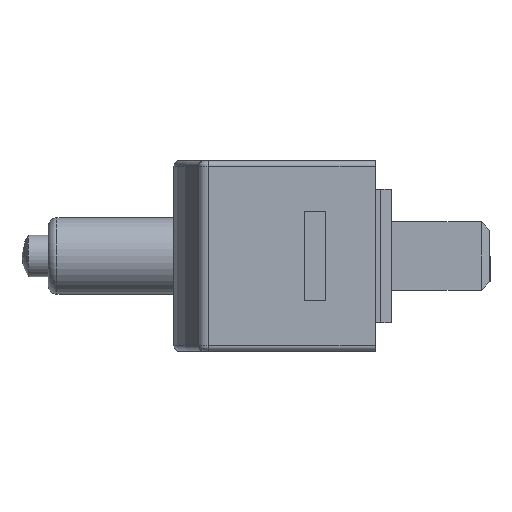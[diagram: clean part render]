
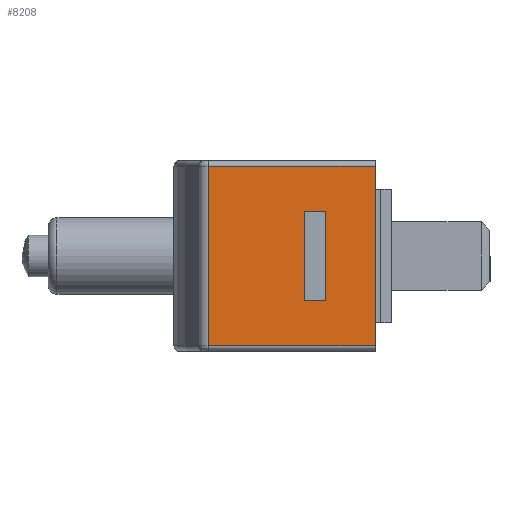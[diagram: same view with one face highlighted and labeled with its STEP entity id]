
A CAD part, left-side view. The second image highlights one B-rep face of the part: STEP entity #8208.
In plain terms, the highlighted planar face has unit normal (-1, 0, 0).
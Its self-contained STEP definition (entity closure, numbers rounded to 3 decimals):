
#8164 = ORIENTED_EDGE ( 'NONE', *, *, #8169, .T. ) ;
#8165 = VERTEX_POINT ( 'NONE', #15076 ) ;
#8166 = ORIENTED_EDGE ( 'NONE', *, *, #8167, .T. ) ;
#8167 = EDGE_CURVE ( 'NONE', #8165, #8171, #15075, .T. ) ;
#8169 = EDGE_CURVE ( 'NONE', #8172, #8165, #15070, .T. ) ;
#8170 = VERTEX_POINT ( 'NONE', #15066 ) ;
#8171 = VERTEX_POINT ( 'NONE', #15065 ) ;
#8172 = VERTEX_POINT ( 'NONE', #15064 ) ;
#8173 = EDGE_CURVE ( 'NONE', #8170, #8172, #15063, .T. ) ;
#8174 = ORIENTED_EDGE ( 'NONE', *, *, #8173, .T. ) ;
#8178 = EDGE_CURVE ( 'NONE', #8184, #8179, #15055, .T. ) ;
#8179 = VERTEX_POINT ( 'NONE', #15051 ) ;
#8180 = EDGE_LOOP ( 'NONE', ( #8181, #8209, #8198, #8201 ) ) ;
#8181 = ORIENTED_EDGE ( 'NONE', *, *, #8182, .T. ) ;
#8182 = EDGE_CURVE ( 'NONE', #8183, #8184, #15121, .T. ) ;
#8183 = VERTEX_POINT ( 'NONE', #15117 ) ;
#8184 = VERTEX_POINT ( 'NONE', #15115 ) ;
#8198 = ORIENTED_EDGE ( 'NONE', *, *, #8199, .F. ) ;
#8199 = EDGE_CURVE ( 'NONE', #8200, #8179, #15157, .T. ) ;
#8200 = VERTEX_POINT ( 'NONE', #15153 ) ;
#8201 = ORIENTED_EDGE ( 'NONE', *, *, #8202, .T. ) ;
#8202 = EDGE_CURVE ( 'NONE', #8200, #8183, #15152, .T. ) ;
#8203 = EDGE_LOOP ( 'NONE', ( #8204, #8174, #8164, #8166 ) ) ;
#8204 = ORIENTED_EDGE ( 'NONE', *, *, #8205, .T. ) ;
#8205 = EDGE_CURVE ( 'NONE', #8171, #8170, #15148, .T. ) ;
#8208 = ADVANCED_FACE ( 'NONE', ( #15142, #15141 ), #15140, .F. ) ;
#8209 = ORIENTED_EDGE ( 'NONE', *, *, #8178, .T. ) ;
#15051 = CARTESIAN_POINT ( 'NONE',  ( -35.2, -3.8, -8.2 ) ) ;
#15052 = DIRECTION ( 'NONE',  ( 0., -1., 0. ) ) ;
#15053 = VECTOR ( 'NONE', #15052, 1000. ) ;
#15054 = CARTESIAN_POINT ( 'NONE',  ( -35.2, 11.461, -8.2 ) ) ;
#15055 = LINE ( 'NONE', #15054, #15053 ) ;
#15060 = DIRECTION ( 'NONE',  ( 0., 0., -1. ) ) ;
#15061 = VECTOR ( 'NONE', #15060, 1000. ) ;
#15062 = CARTESIAN_POINT ( 'NONE',  ( -35.2, 0.7, 4.1 ) ) ;
#15063 = LINE ( 'NONE', #15062, #15061 ) ;
#15064 = CARTESIAN_POINT ( 'NONE',  ( -35.2, 0.7, -4.1 ) ) ;
#15065 = CARTESIAN_POINT ( 'NONE',  ( -35.2, 2.7, 4.1 ) ) ;
#15066 = CARTESIAN_POINT ( 'NONE',  ( -35.2, 0.7, 4.1 ) ) ;
#15067 = DIRECTION ( 'NONE',  ( 0., 1., 0. ) ) ;
#15068 = VECTOR ( 'NONE', #15067, 1000. ) ;
#15069 = CARTESIAN_POINT ( 'NONE',  ( -35.2, 2.7, -4.1 ) ) ;
#15070 = LINE ( 'NONE', #15069, #15068 ) ;
#15072 = DIRECTION ( 'NONE',  ( 0., 0., 1. ) ) ;
#15073 = VECTOR ( 'NONE', #15072, 1000. ) ;
#15074 = CARTESIAN_POINT ( 'NONE',  ( -35.2, 2.7, 4.1 ) ) ;
#15075 = LINE ( 'NONE', #15074, #15073 ) ;
#15076 = CARTESIAN_POINT ( 'NONE',  ( -35.2, 2.7, -4.1 ) ) ;
#15115 = CARTESIAN_POINT ( 'NONE',  ( -35.2, 11.461, -8.2 ) ) ;
#15117 = CARTESIAN_POINT ( 'NONE',  ( -35.2, 11.461, 8.2 ) ) ;
#15118 = DIRECTION ( 'NONE',  ( 0., 0., -1. ) ) ;
#15119 = VECTOR ( 'NONE', #15118, 1000. ) ;
#15120 = CARTESIAN_POINT ( 'NONE',  ( -35.2, 11.461, 8.7 ) ) ;
#15121 = LINE ( 'NONE', #15120, #15119 ) ;
#15135 = DIRECTION ( 'NONE',  ( 0., 0., -1. ) ) ;
#15136 = DIRECTION ( 'NONE',  ( 1., 0., 0. ) ) ;
#15137 = CARTESIAN_POINT ( 'NONE',  ( -35.2, 11.461, 8.7 ) ) ;
#15138 = AXIS2_PLACEMENT_3D ( 'NONE', #15137, #15136, #15135 ) ;
#15140 = PLANE ( 'NONE',  #15138 ) ;
#15141 = FACE_BOUND ( 'NONE', #8203, .T. ) ;
#15142 = FACE_OUTER_BOUND ( 'NONE', #8180, .T. ) ;
#15145 = DIRECTION ( 'NONE',  ( 0., -1., 0. ) ) ;
#15146 = VECTOR ( 'NONE', #15145, 1000. ) ;
#15147 = CARTESIAN_POINT ( 'NONE',  ( -35.2, 2.7, 4.1 ) ) ;
#15148 = LINE ( 'NONE', #15147, #15146 ) ;
#15149 = DIRECTION ( 'NONE',  ( 0., 1., 0. ) ) ;
#15150 = VECTOR ( 'NONE', #15149, 1000. ) ;
#15151 = CARTESIAN_POINT ( 'NONE',  ( -35.2, 11.461, 8.2 ) ) ;
#15152 = LINE ( 'NONE', #15151, #15150 ) ;
#15153 = CARTESIAN_POINT ( 'NONE',  ( -35.2, -3.8, 8.2 ) ) ;
#15154 = DIRECTION ( 'NONE',  ( 0., 0., -1. ) ) ;
#15155 = VECTOR ( 'NONE', #15154, 1000. ) ;
#15156 = CARTESIAN_POINT ( 'NONE',  ( -35.2, -3.8, 8.7 ) ) ;
#15157 = LINE ( 'NONE', #15156, #15155 ) ;
